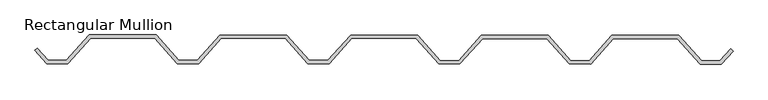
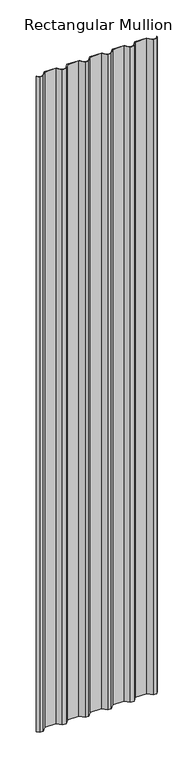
"""IFC4 building model written with IfcOpenShell, lengths in millimetres: member geometry, Rectangular Mullion : Telha Metálica - Trapezoidal."""

from ifc_helpers import new_model, si_unit, frame, origin, place, context, project, spatial, polyline, outline, extrude, source, transform, mapped, element, save


def rectangular_mullion_da0ee43c(model_context):
    return source(origin(), model_context, "Body", "SweptSolid", [
        extrude(outline(polyline([(440.066155, 75.6159987), (344.0661915, 75.6997745), (310.0330432, 37.7294595), (278.0330554, 37.7573848), (244.0662296, 75.7870409), (148.0662661, 75.8708167), (114.0331178, 37.9005018), (82.03313, 37.928427), (48.0663042, 75.9580832), (-47.9336592, 76.041859), (-81.9668075, 38.071544), (-113.9667953, 38.0994693), (-147.9336211, 76.1291254), (-243.9335846, 76.2129012), (-277.9667329, 38.2425863), (-309.9667207, 38.2705115), (-343.9335465, 76.3001677), (-439.93351, 76.3839434), (-473.9666583, 38.4136285), (-505.9666461, 38.4415538), (-523.4905169, 58.0614849), (-519.9464424, 61.5993792), (-503.7267316, 43.439601), (-476.1978461, 43.4155775), (-442.1646978, 81.3858924), (-341.693632, 81.2982149), (-307.7268062, 43.2685587), (-280.1979207, 43.2445352), (-246.1647724, 81.2148502), (-145.6937067, 81.1271726), (-111.7268809, 43.0975165), (-84.1979953, 43.073493), (-50.164847, 81.0438079), (50.3062187, 80.9561304), (84.2730445, 42.9264742), (111.80193, 42.9024508), (145.8350783, 80.8727657), (246.3061441, 80.7850881), (280.2729699, 42.755432), (307.8018554, 42.7314085), (341.8350037, 80.7017235), (442.3060694, 80.6140459), (476.2728952, 42.5843898), (503.8017808, 42.5603663), (520.072301, 60.7131616), (523.6101953, 57.1690871), (506.0329686, 37.5584173), (474.0329808, 37.5863426), (440.066155, 75.6159987)])), frame((0.0, 0.0, -5999.7757458), z_axis=(0.0, 0.0, 1.0), x_axis=(1.0, 0.0, 0.0)), (0.0, 0.0, 1.0), 5999.7757458),
    ])


if __name__ == "__main__":
    model = new_model("IFC4")
    model_context = context("Model", 3, world=origin())
    ifc_project = project(units=[si_unit("LENGTHUNIT", "METRE", prefix="MILLI")], contexts=[model_context])
    site = spatial("IfcSite", under=ifc_project)
    building = spatial("IfcBuilding", under=site)
    placement = place(None, origin())
    rectangular_mullion_shape = rectangular_mullion_da0ee43c(model_context)
    element("IfcMember", 1, ObjectType="Rectangular Mullion : Telha Metálica - Trapezoidal", at=placement, inside=building, context=model_context, shape_type="MappedRepresentation", body=[
        mapped(rectangular_mullion_shape, transform((0.0, 0.0, 0.0), x_axis=(1.0, 0.0, 0.0), y_axis=(0.0, 1.0, 0.0), z_axis=(0.0, 0.0, 1.0))),
    ])
    save(model, "model.ifc")
